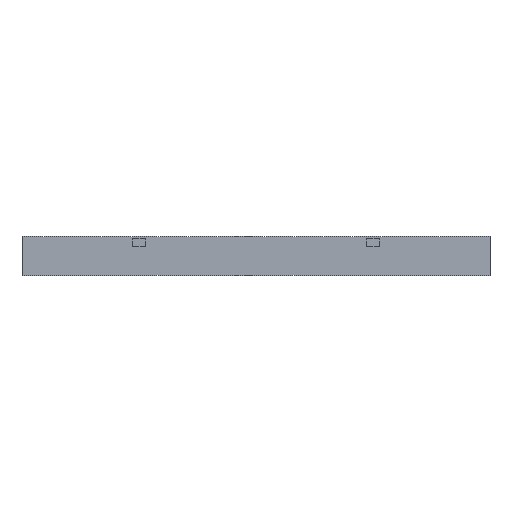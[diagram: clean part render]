
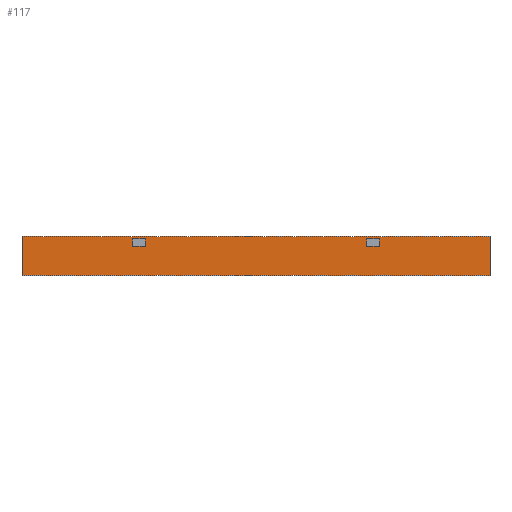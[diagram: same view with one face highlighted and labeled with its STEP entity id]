
A CAD part, left-side view. The second image highlights one B-rep face of the part: STEP entity #117.
In plain terms, the highlighted planar face has unit normal (-1, 0, 0).
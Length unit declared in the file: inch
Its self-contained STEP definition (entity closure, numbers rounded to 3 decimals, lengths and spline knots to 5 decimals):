
#16=FACE_BOUND('',#456,.T.);
#17=FACE_BOUND('',#457,.T.);
#117=ADVANCED_FACE('',(#285,#16,#17),#2797,.T.);
#285=FACE_OUTER_BOUND('',#455,.T.);
#455=EDGE_LOOP('',(#842,#843,#844,#845));
#456=EDGE_LOOP('',(#846,#847,#848,#849));
#457=EDGE_LOOP('',(#850,#851,#852,#853));
#842=ORIENTED_EDGE('',*,*,#1690,.T.);
#843=ORIENTED_EDGE('',*,*,#1691,.T.);
#844=ORIENTED_EDGE('',*,*,#1692,.T.);
#845=ORIENTED_EDGE('',*,*,#1693,.T.);
#846=ORIENTED_EDGE('',*,*,#1640,.F.);
#847=ORIENTED_EDGE('',*,*,#1670,.F.);
#848=ORIENTED_EDGE('',*,*,#1607,.F.);
#849=ORIENTED_EDGE('',*,*,#1570,.F.);
#850=ORIENTED_EDGE('',*,*,#1697,.T.);
#851=ORIENTED_EDGE('',*,*,#1694,.T.);
#852=ORIENTED_EDGE('',*,*,#1695,.T.);
#853=ORIENTED_EDGE('',*,*,#1696,.T.);
#1570=EDGE_CURVE('',#2482,#2483,#2026,.T.);
#1607=EDGE_CURVE('',#2483,#2508,#2063,.T.);
#1640=EDGE_CURVE('',#2530,#2482,#2096,.T.);
#1670=EDGE_CURVE('',#2508,#2530,#2126,.T.);
#1690=EDGE_CURVE('',#2550,#2551,#2146,.T.);
#1691=EDGE_CURVE('',#2551,#2552,#2147,.T.);
#1692=EDGE_CURVE('',#2552,#2553,#2148,.T.);
#1693=EDGE_CURVE('',#2553,#2550,#2149,.T.);
#1694=EDGE_CURVE('',#2554,#2555,#2150,.T.);
#1695=EDGE_CURVE('',#2555,#2556,#2151,.T.);
#1696=EDGE_CURVE('',#2556,#2557,#2152,.T.);
#1697=EDGE_CURVE('',#2557,#2554,#2153,.T.);
#2026=B_SPLINE_CURVE_WITH_KNOTS('',1,(#3903,#3904),.UNSPECIFIED.,.F.,.F.,
(2,2),(0.,1.25),.UNSPECIFIED.);
#2063=B_SPLINE_CURVE_WITH_KNOTS('',1,(#3977,#3978),.UNSPECIFIED.,.F.,.F.,
(2,2),(0.,0.75),.UNSPECIFIED.);
#2096=B_SPLINE_CURVE_WITH_KNOTS('',1,(#4043,#4044),.UNSPECIFIED.,.F.,.F.,
(2,2),(0.,0.75),.UNSPECIFIED.);
#2126=B_SPLINE_CURVE_WITH_KNOTS('',1,(#4103,#4104),.UNSPECIFIED.,.F.,.F.,
(2,2),(0.,1.25),.UNSPECIFIED.);
#2146=B_SPLINE_CURVE_WITH_KNOTS('',1,(#4143,#4144),.UNSPECIFIED.,.F.,.F.,
(2,2),(0.,48.),.UNSPECIFIED.);
#2147=B_SPLINE_CURVE_WITH_KNOTS('',1,(#4145,#4146),.UNSPECIFIED.,.F.,.F.,
(2,2),(0.,4.),.UNSPECIFIED.);
#2148=B_SPLINE_CURVE_WITH_KNOTS('',1,(#4147,#4148),.UNSPECIFIED.,.F.,.F.,
(2,2),(0.,48.),.UNSPECIFIED.);
#2149=B_SPLINE_CURVE_WITH_KNOTS('',1,(#4149,#4150),.UNSPECIFIED.,.F.,.F.,
(2,2),(0.,4.),.UNSPECIFIED.);
#2150=B_SPLINE_CURVE_WITH_KNOTS('',1,(#4151,#4152),.UNSPECIFIED.,.F.,.F.,
(2,2),(0.,1.25),.UNSPECIFIED.);
#2151=B_SPLINE_CURVE_WITH_KNOTS('',1,(#4153,#4154),.UNSPECIFIED.,.F.,.F.,
(2,2),(0.,0.75),.UNSPECIFIED.);
#2152=B_SPLINE_CURVE_WITH_KNOTS('',1,(#4155,#4156),.UNSPECIFIED.,.F.,.F.,
(2,2),(0.,1.25),.UNSPECIFIED.);
#2153=B_SPLINE_CURVE_WITH_KNOTS('',1,(#4157,#4158),.UNSPECIFIED.,.F.,.F.,
(2,2),(0.,0.75),.UNSPECIFIED.);
#2482=VERTEX_POINT('',#3555);
#2483=VERTEX_POINT('',#3556);
#2508=VERTEX_POINT('',#3581);
#2530=VERTEX_POINT('',#3603);
#2550=VERTEX_POINT('',#3623);
#2551=VERTEX_POINT('',#3624);
#2552=VERTEX_POINT('',#3625);
#2553=VERTEX_POINT('',#3626);
#2554=VERTEX_POINT('',#3627);
#2555=VERTEX_POINT('',#3628);
#2556=VERTEX_POINT('',#3629);
#2557=VERTEX_POINT('',#3630);
#2797=PLANE('',#3056);
#3056=AXIS2_PLACEMENT_3D('',#3398,#3227,$);
#3227=DIRECTION('',(-1.,0.,0.));
#3398=CARTESIAN_POINT('',(-21.25,28.80472,2.40472));
#3555=CARTESIAN_POINT('',(-21.25,11.375,1.75));
#3556=CARTESIAN_POINT('',(-21.25,12.625,1.75));
#3581=CARTESIAN_POINT('',(-21.25,12.625,1.));
#3603=CARTESIAN_POINT('',(-21.25,11.375,1.));
#3623=CARTESIAN_POINT('',(-21.25,24.,-2.));
#3624=CARTESIAN_POINT('',(-21.25,-24.,-2.));
#3625=CARTESIAN_POINT('',(-21.25,-24.,2.));
#3626=CARTESIAN_POINT('',(-21.25,24.,2.));
#3627=CARTESIAN_POINT('',(-21.25,-11.375,1.75));
#3628=CARTESIAN_POINT('',(-21.25,-12.625,1.75));
#3629=CARTESIAN_POINT('',(-21.25,-12.625,1.));
#3630=CARTESIAN_POINT('',(-21.25,-11.375,1.));
#3903=CARTESIAN_POINT('',(-21.25,11.375,1.75));
#3904=CARTESIAN_POINT('',(-21.25,12.625,1.75));
#3977=CARTESIAN_POINT('',(-21.25,12.625,1.75));
#3978=CARTESIAN_POINT('',(-21.25,12.625,1.));
#4043=CARTESIAN_POINT('',(-21.25,11.375,1.));
#4044=CARTESIAN_POINT('',(-21.25,11.375,1.75));
#4103=CARTESIAN_POINT('',(-21.25,12.625,1.));
#4104=CARTESIAN_POINT('',(-21.25,11.375,1.));
#4143=CARTESIAN_POINT('',(-21.25,24.,-2.));
#4144=CARTESIAN_POINT('',(-21.25,-24.,-2.));
#4145=CARTESIAN_POINT('',(-21.25,-24.,-2.));
#4146=CARTESIAN_POINT('',(-21.25,-24.,2.));
#4147=CARTESIAN_POINT('',(-21.25,-24.,2.));
#4148=CARTESIAN_POINT('',(-21.25,24.,2.));
#4149=CARTESIAN_POINT('',(-21.25,24.,2.));
#4150=CARTESIAN_POINT('',(-21.25,24.,-2.));
#4151=CARTESIAN_POINT('',(-21.25,-11.375,1.75));
#4152=CARTESIAN_POINT('',(-21.25,-12.625,1.75));
#4153=CARTESIAN_POINT('',(-21.25,-12.625,1.75));
#4154=CARTESIAN_POINT('',(-21.25,-12.625,1.));
#4155=CARTESIAN_POINT('',(-21.25,-12.625,1.));
#4156=CARTESIAN_POINT('',(-21.25,-11.375,1.));
#4157=CARTESIAN_POINT('',(-21.25,-11.375,1.));
#4158=CARTESIAN_POINT('',(-21.25,-11.375,1.75));
